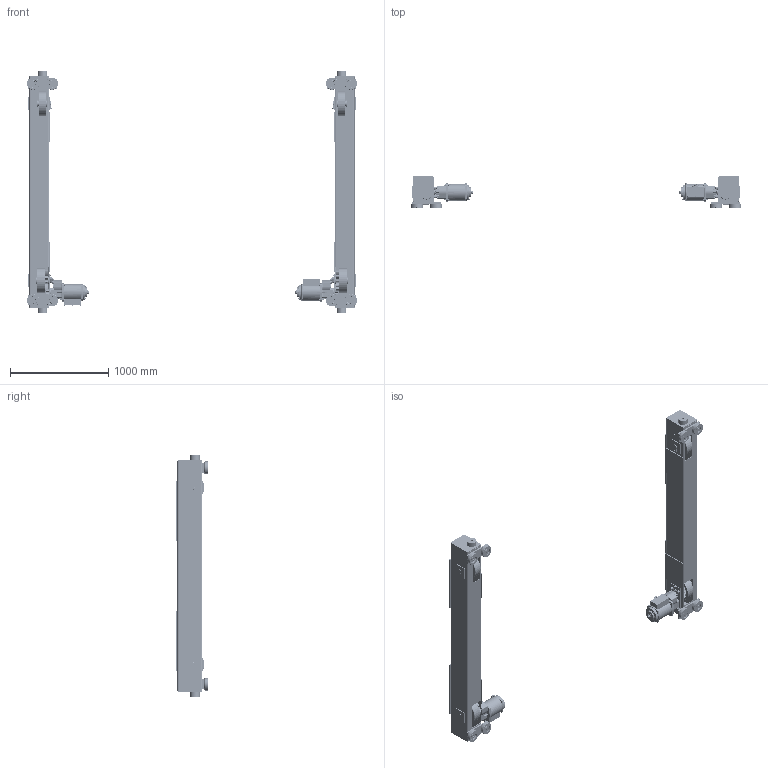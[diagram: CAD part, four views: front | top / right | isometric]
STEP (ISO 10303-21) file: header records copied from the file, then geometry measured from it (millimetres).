
FILE_DESCRIPTION (( 'STEP AP214' ), '1' );
FILE_NAME ('MTMH-3-1035.STEP', '2026-08-14T17:40:15', ( '' ), ( '' ), 'SwSTEP 2.0', 'SolidWorks 2026', '' );
FILE_SCHEMA (( 'AUTOMOTIVE_DESIGN' ));
Length unit declared in the file: inch
Products named in the file (73): T1000-800-004_92.4375; N6QO375120; 62514_6251401; MS116050; 6244513; MS555010_MS555010; 9012712_9012712; G1JE075S9603; N6QO575E91013; 9091295_9091295; G1JE150S9707; 62516_1035s 2.5 SQUARE BAR; 9012711_9012711; 9091274_9091274; 6244511; 9012514_9012514; 6244506; 62588; 9000608; 6244512; 9091281_B18.3.1M - 8 x 1.25 x 65 Hex SHCS -- 65CHX; N6QO375207; 6244507; G1JE150S9701; 6244510; N6QO5751102; G1JE075S9310; 9047280_9047280; N6QO575E91341; G1JM150T_NORMAL; 62517_1035s 2.5 SQUARE BAR; G1JE150S9609; G1JE075S9303; 9093350_9093350; 9091250_9091250; N6QO3751108; 9000710; 62587; N6QO375E9108; 6244522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
Assembly tree (288 placements, depth 4):
  MTMH-3-1035
    62516_1035s 2.5 SQUARE BAR
      62514_6251401
        T1000-800-004_92.4375
        6244512
        6244511
        6244511
        6244510
        6244510
        6244510
      6244516  x2
      6244507  x2
      6244515X_6244515SP  x2
        6244514X_6244514D
        6244522
      MS116050
      6244504
      6244505
      6244506
    62517_1035s 2.5 SQUARE BAR
      62515_6251501
        T1000-800-004_92.4375
        6244512
        6244511
        6244511
        6244510
        6244510
        6244510
      6244516  x2
      6244507  x2
      6244515X_6244515SP  x2
        6244514X_6244514D
        6244522
      MS116050
      6244504
      6244505
      6244506
    6244513  x4
    6244518  x4
    9012711_9012711  x28
    9093327_9093327  x24
    N6QO5751101  x2
      N6QO575E91013
      N6QO575E91341
      N6WO975E91311
      9000710
      9091295_9091295
      9012712_9012712
    N6QO5751102  x2
      N6QO575E9102
      9000710
    N6QO3751108  x8
      N6QO375E9108
      9000608
      9047280_9047280
    N6QO375120  x8
    N6QO375207  x4
    9012514_9012514  x4
    9093329_9093329  x4
    G1JM150T_NORMAL
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Bounding box: 3364.67 x 321.57 x 2463.96 mm (x, y, z)
Volume: 75383545.1 mm3; surface area: 15017927.4 mm2
Topology: 316 solids, 380 shells, 16558 faces, 42084 edges, 27000 vertices
Faces by surface type: plane 9096, cylinder 3624, bspline 1532, cone 1304, torus 832, sphere 170
Entity records: 157619 total; most frequent: CARTESIAN_POINT 60749, ORIENTED_EDGE 19926, DIRECTION 18765, EDGE_CURVE 9967, AXIS2_PLACEMENT_3D 7053, VERTEX_POINT 6387, VECTOR 4659, LINE 4659
